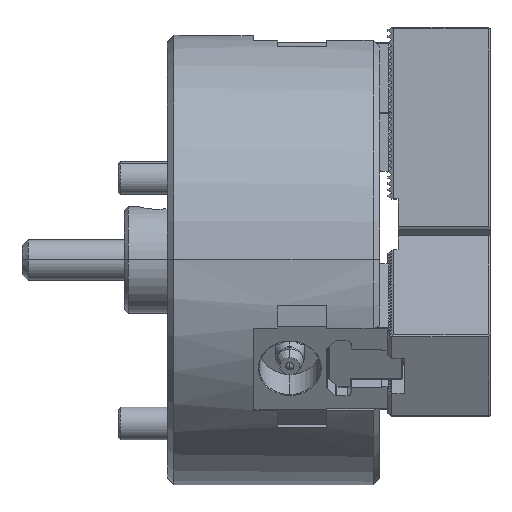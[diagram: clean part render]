
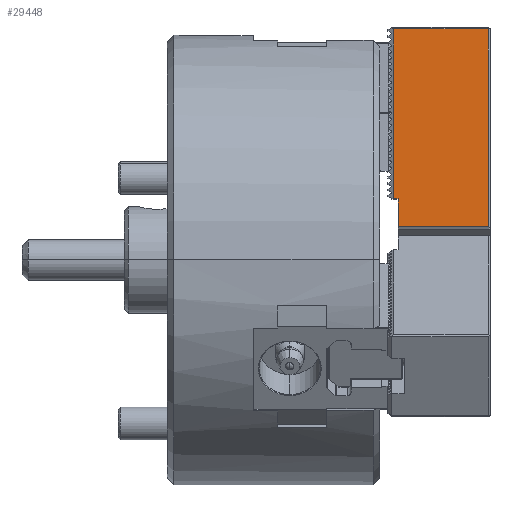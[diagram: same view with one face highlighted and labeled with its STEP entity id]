
A CAD part, top view. The second image highlights one B-rep face of the part: STEP entity #29448.
In plain terms, the highlighted planar face has unit normal (0, 0, 1).
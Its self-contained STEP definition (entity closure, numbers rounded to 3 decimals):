
#1539 = VECTOR ( 'NONE', #55742, 1000. ) ;
#3384 = LINE ( 'NONE', #10004, #56958 ) ;
#3838 = CARTESIAN_POINT ( 'NONE',  ( 25., 6.174, 11.5 ) ) ;
#5404 = EDGE_CURVE ( 'NONE', #76781, #54192, #60271, .T. ) ;
#5663 = DIRECTION ( 'NONE',  ( -1., 0., 0. ) ) ;
#9313 = FACE_OUTER_BOUND ( 'NONE', #68574, .T. ) ;
#9386 = EDGE_CURVE ( 'NONE', #27539, #76781, #74412, .T. ) ;
#10004 = CARTESIAN_POINT ( 'NONE',  ( 1.4, 55., 11.5 ) ) ;
#10083 = CARTESIAN_POINT ( 'NONE',  ( 2.5, 13., 11.5 ) ) ;
#13479 = ORIENTED_EDGE ( 'NONE', *, *, #41339, .F. ) ;
#13771 = ORIENTED_EDGE ( 'NONE', *, *, #9386, .T. ) ;
#14316 = ORIENTED_EDGE ( 'NONE', *, *, #5404, .T. ) ;
#16244 = ORIENTED_EDGE ( 'NONE', *, *, #40795, .F. ) ;
#20936 = DIRECTION ( 'NONE',  ( 0., -1., 0. ) ) ;
#21720 = VERTEX_POINT ( 'NONE', #33960 ) ;
#23969 = DIRECTION ( 'NONE',  ( -1., 0., 0. ) ) ;
#24015 = VERTEX_POINT ( 'NONE', #10083 ) ;
#27539 = VERTEX_POINT ( 'NONE', #34044 ) ;
#29363 = CARTESIAN_POINT ( 'NONE',  ( 1.4, 13., 11.5 ) ) ;
#29407 = VECTOR ( 'NONE', #51110, 1000. ) ;
#29448 = ADVANCED_FACE ( 'NONE', ( #9313 ), #46400, .F. ) ;
#32583 = DIRECTION ( 'NONE',  ( 0., 1., 0. ) ) ;
#32759 = CARTESIAN_POINT ( 'NONE',  ( 25., 6.174, 11.5 ) ) ;
#33960 = CARTESIAN_POINT ( 'NONE',  ( 2.5, 6.174, 11.5 ) ) ;
#34044 = CARTESIAN_POINT ( 'NONE',  ( 24.6, 6.174, 11.5 ) ) ;
#34322 = VECTOR ( 'NONE', #32583, 1000. ) ;
#34533 = VECTOR ( 'NONE', #5663, 1000. ) ;
#38820 = LINE ( 'NONE', #56021, #34322 ) ;
#40795 = EDGE_CURVE ( 'NONE', #27539, #21720, #58084, .T. ) ;
#40820 = LINE ( 'NONE', #65404, #34533 ) ;
#41234 = EDGE_CURVE ( 'NONE', #54192, #45792, #3384, .T. ) ;
#41339 = EDGE_CURVE ( 'NONE', #24015, #45792, #40820, .T. ) ;
#45792 = VERTEX_POINT ( 'NONE', #29363 ) ;
#46400 = PLANE ( 'NONE',  #51313 ) ;
#51110 = DIRECTION ( 'NONE',  ( -1., 0., 0. ) ) ;
#51313 = AXIS2_PLACEMENT_3D ( 'NONE', #3838, #57339, #58465 ) ;
#52765 = ORIENTED_EDGE ( 'NONE', *, *, #41234, .T. ) ;
#54192 = VERTEX_POINT ( 'NONE', #75228 ) ;
#54838 = VECTOR ( 'NONE', #23969, 1000. ) ;
#54973 = CARTESIAN_POINT ( 'NONE',  ( 24.6, 6.174, 11.5 ) ) ;
#55742 = DIRECTION ( 'NONE',  ( 0., 1., 0. ) ) ;
#56021 = CARTESIAN_POINT ( 'NONE',  ( 2.5, 0., 11.5 ) ) ;
#56958 = VECTOR ( 'NONE', #20936, 1000. ) ;
#57339 = DIRECTION ( 'NONE',  ( 0., 0., -1. ) ) ;
#58084 = LINE ( 'NONE', #32759, #29407 ) ;
#58465 = DIRECTION ( 'NONE',  ( 0., 1., 0. ) ) ;
#60271 = LINE ( 'NONE', #65378, #54838 ) ;
#64318 = ORIENTED_EDGE ( 'NONE', *, *, #74407, .F. ) ;
#65378 = CARTESIAN_POINT ( 'NONE',  ( 25., 54.6, 11.5 ) ) ;
#65404 = CARTESIAN_POINT ( 'NONE',  ( 2.5, 13., 11.5 ) ) ;
#68574 = EDGE_LOOP ( 'NONE', ( #16244, #13771, #14316, #52765, #13479, #64318 ) ) ;
#73842 = CARTESIAN_POINT ( 'NONE',  ( 24.6, 54.6, 11.5 ) ) ;
#74407 = EDGE_CURVE ( 'NONE', #21720, #24015, #38820, .T. ) ;
#74412 = LINE ( 'NONE', #54973, #1539 ) ;
#75228 = CARTESIAN_POINT ( 'NONE',  ( 1.4, 54.6, 11.5 ) ) ;
#76781 = VERTEX_POINT ( 'NONE', #73842 ) ;
